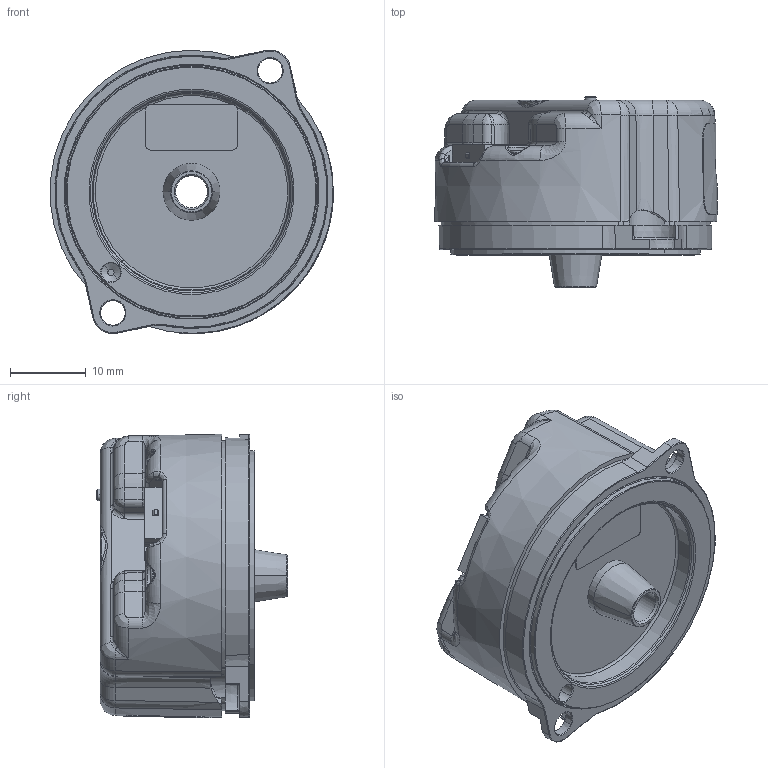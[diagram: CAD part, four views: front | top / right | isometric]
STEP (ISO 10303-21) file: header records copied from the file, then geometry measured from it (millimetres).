
FILE_DESCRIPTION((''),'2;1');
FILE_NAME('D-582-039_000672407_SW0002','2024-09-18T',('andreas.woehrstein'),(''),'CREO PARAMETRIC BY PTC INC, 2018360','CREO PARAMETRIC BY PTC INC, 2018360','');
FILE_SCHEMA(('AUTOMOTIVE_DESIGN { 1 0 10303 214 1 1 1 1 }'));
Products named in the file (1): D-582-039_000672407_SW0002
Bounding box: 37.26 x 25.15 x 37.35 mm (x, y, z)
Volume: 17186.5 mm3; surface area: 8415.2 mm2
Topology: 1 solids, 1 shells, 2036 faces, 5912 edges, 3807 vertices
Faces by surface type: plane 1346, cylinder 349, bspline 152, cone 112, torus 69, sphere 8
Entity records: 95896 total; most frequent: CARTESIAN_POINT 28705, ORIENTED_EDGE 11824, DIRECTION 9976, EDGE_CURVE 5912, VECTOR 3932, LINE 3932, VERTEX_POINT 3807, AXIS2_PLACEMENT_3D 3022
